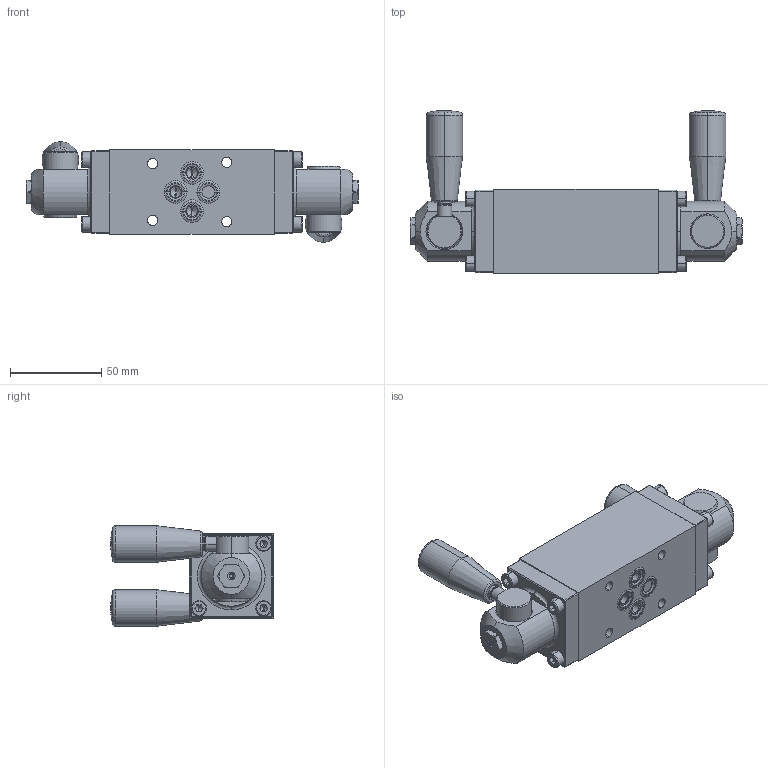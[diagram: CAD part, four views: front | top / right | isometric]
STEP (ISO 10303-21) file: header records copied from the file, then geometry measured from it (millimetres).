
FILE_DESCRIPTION (( 'STEP AP214' ), '1' );
FILE_NAME ('AG3406.STEP', '2019-09-03T11:06:52', ( '' ), ( '' ), 'SwSTEP 2.0', 'SolidWorks 2018', '' );
FILE_SCHEMA (( 'AUTOMOTIVE_DESIGN' ));
Length unit declared in the file: millimetre
Products named in the file (1): AG3406
Bounding box: 181.6 x 89 x 55 mm (x, y, z)
Volume: 304598.3 mm3; surface area: 56229.1 mm2
Topology: 10 solids, 99 shells, 1192 faces, 2617 edges, 1622 vertices
Faces by surface type: plane 416, cylinder 378, cone 182, torus 102, bspline 98, sphere 16
Entity records: 48091 total; most frequent: CARTESIAN_POINT 9323, DIRECTION 5427, ORIENTED_EDGE 5114, EDGE_CURVE 2557, AXIS2_PLACEMENT_3D 2203, VERTEX_POINT 1622, EDGE_LOOP 1287, UNCERTAINTY_MEASURE_WITH_UNIT 1204
